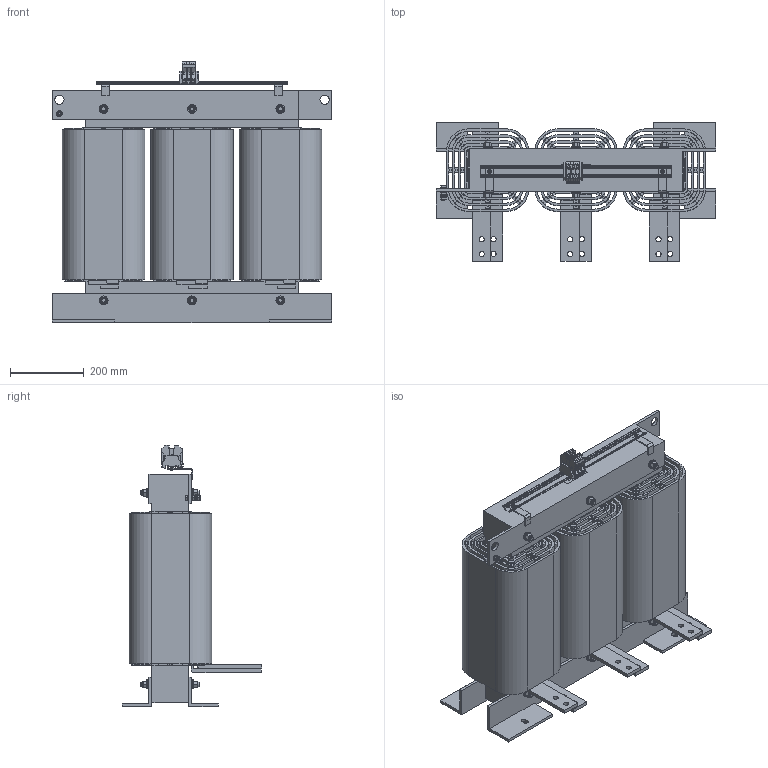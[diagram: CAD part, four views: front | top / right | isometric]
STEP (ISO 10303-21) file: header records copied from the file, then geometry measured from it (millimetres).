
FILE_DESCRIPTION((''),'2;1');
FILE_NAME('C:\Users\fp1\CAD-Daten\DTF\DTF80 690 50.stp','2014-07-01T10:49:45',('FP1'),(''),'Autodesk Inventor 2013','Autodesk Inventor 2013','');
FILE_SCHEMA(('AUTOMOTIVE_DESIGN { 1 0 10303 214 1 1 1 1 }'));
Length unit declared in the file: millimetre
Products named in the file (1): Bauteil134
Bounding box: 760 x 377.5 x 708.65 mm (x, y, z)
Volume: 51308434.5 mm3; surface area: 9655184 mm2
Topology: 22 solids, 22 shells, 4114 faces, 12244 edges, 8114 vertices
Faces by surface type: plane 3014, cylinder 971, bspline 68, cone 57, torus 2, sphere 2
Full cylindrical faces by diameter (mm): 5 x2, 6.8 x6, 8 x3, 8.3 x2, 8.4 x2, 10 x1, 11.63 x1, 12 x12, 14 x12, 16 x2, 21 x12, 24 x12, 25 x2
Entity records: 136256 total; most frequent: CARTESIAN_POINT 28874, ORIENTED_EDGE 24184, DIRECTION 20976, EDGE_CURVE 12092, VERTEX_POINT 8084, VECTOR 7700, LINE 7700, AXIS2_PLACEMENT_3D 6638
